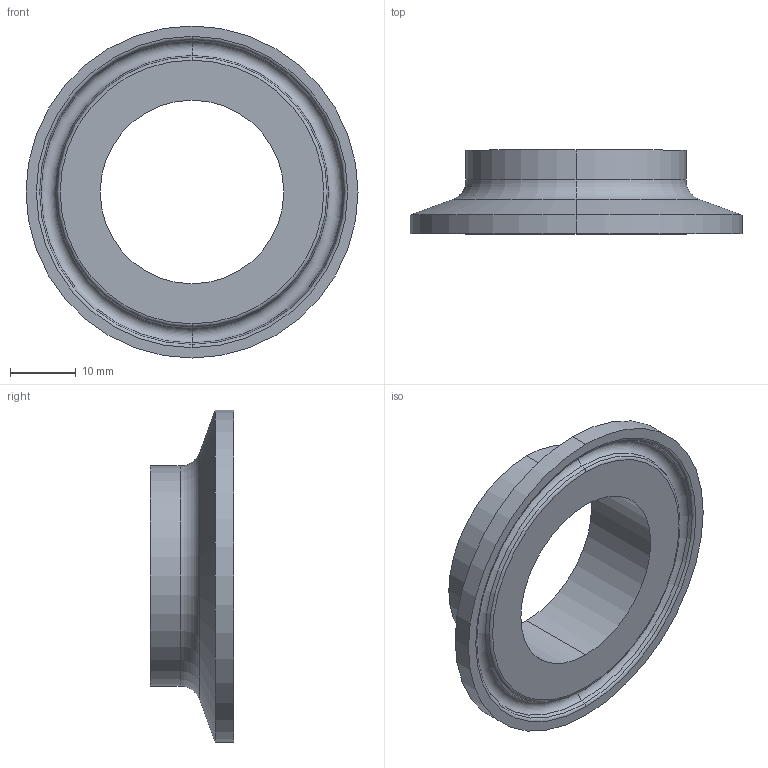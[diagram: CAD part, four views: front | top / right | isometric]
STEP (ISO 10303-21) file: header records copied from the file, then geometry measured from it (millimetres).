
FILE_DESCRIPTION (( 'STEP AP214' ), '1' );
FILE_NAME ('EG2CS-10-1.0.STEP', '2025-07-30T17:55:54', ( '' ), ( '' ), 'SwSTEP 2.0', 'SolidWorks 2022', '' );
FILE_SCHEMA (( 'AUTOMOTIVE_DESIGN' ));
Length unit declared in the file: inch
Products named in the file (1): EG2CS-10-1.0
Bounding box: 50.39 x 12.7 x 50.39 mm (x, y, z)
Volume: 7803.4 mm3; surface area: 5275.1 mm2
Topology: 1 solids, 1 shells, 23 faces, 46 edges, 26 vertices
Faces by surface type: torus 8, cylinder 6, cone 6, plane 3
Entity records: 646 total; most frequent: DIRECTION 128, CARTESIAN_POINT 96, ORIENTED_EDGE 92, AXIS2_PLACEMENT_3D 58, EDGE_CURVE 46, CIRCLE 34, VERTEX_POINT 26, EDGE_LOOP 26
